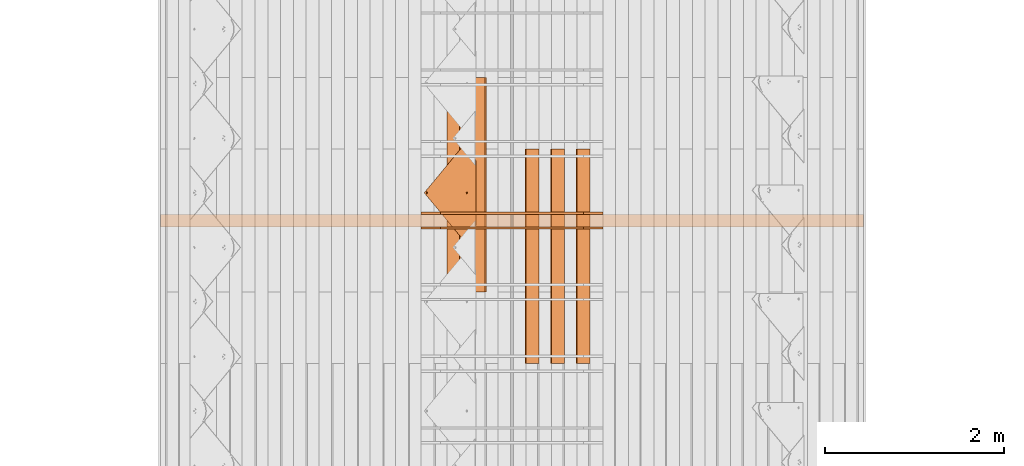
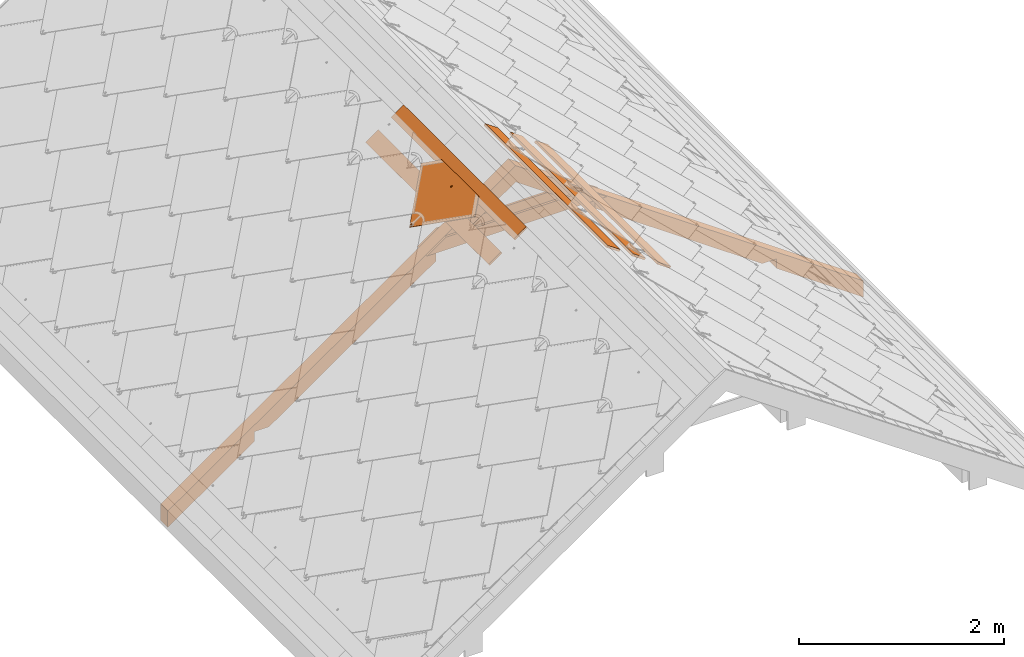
# One storey, part 37 of 133: 9 proxies, 1 element without a shape of its own.
"""IFC2X3 building model written with IfcOpenShell, lengths in millimetres."""

from ifc_helpers import new_model, entity, si_unit, converted_unit, derived_unit, direction, frame, frame_2d, origin, place, context, subcontext, project, spatial, polyline, rectangle, outline, extrude, faceted_brep, source, transform, mapped, material, material_list, type_object, type_shapes, element, aggregate, save


model = new_model("IFC2X3")

# Units and contexts
model_context = context("Model", 3, precision=0.01, world=origin(), true_north=direction((6.12303176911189e-17, 1.0)))
body_context = subcontext(model_context, "Body", "Model", "MODEL_VIEW")
ifc_project = project(units=[si_unit("LENGTHUNIT", "METRE", prefix="MILLI"), si_unit("AREAUNIT", "SQUARE_METRE"), si_unit("VOLUMEUNIT", "CUBIC_METRE"), converted_unit("PLANEANGLEUNIT", "DEGREE", entity("IfcRatioMeasure", 0.0174532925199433), si_unit("PLANEANGLEUNIT", "RADIAN"), dimensions=[0, 0, 0, 0, 0, 0, 0]), si_unit("MASSUNIT", "GRAM", prefix="KILO"), derived_unit("MASSDENSITYUNIT", [(si_unit("MASSUNIT", "GRAM", prefix="KILO"), 1), (si_unit("LENGTHUNIT", "METRE"), -3)]), si_unit("TIMEUNIT", "SECOND"), si_unit("FREQUENCYUNIT", "HERTZ"), si_unit("THERMODYNAMICTEMPERATUREUNIT", "DEGREE_CELSIUS"), derived_unit("THERMALTRANSMITTANCEUNIT", [(si_unit("MASSUNIT", "GRAM", prefix="KILO"), 1), (si_unit("THERMODYNAMICTEMPERATUREUNIT", "KELVIN"), -1), (si_unit("TIMEUNIT", "SECOND"), -3)]), derived_unit("VOLUMETRICFLOWRATEUNIT", [(si_unit("LENGTHUNIT", "METRE"), 3), (si_unit("TIMEUNIT", "SECOND"), -1)]), si_unit("ELECTRICCURRENTUNIT", "AMPERE"), si_unit("ELECTRICVOLTAGEUNIT", "VOLT"), si_unit("POWERUNIT", "WATT"), si_unit("FORCEUNIT", "NEWTON", prefix="KILO"), si_unit("ILLUMINANCEUNIT", "LUX"), si_unit("LUMINOUSFLUXUNIT", "LUMEN"), si_unit("LUMINOUSINTENSITYUNIT", "CANDELA"), derived_unit("USERDEFINED", [(si_unit("MASSUNIT", "GRAM", prefix="KILO"), -1), (si_unit("LENGTHUNIT", "METRE"), -2), (si_unit("TIMEUNIT", "SECOND"), 3), (si_unit("LUMINOUSFLUXUNIT", "LUMEN"), 1)]), derived_unit("LINEARVELOCITYUNIT", [(si_unit("LENGTHUNIT", "METRE"), 1), (si_unit("TIMEUNIT", "SECOND"), -1)]), si_unit("PRESSUREUNIT", "PASCAL"), derived_unit("USERDEFINED", [(si_unit("LENGTHUNIT", "METRE"), -2), (si_unit("MASSUNIT", "GRAM", prefix="KILO"), 1), (si_unit("TIMEUNIT", "SECOND"), -2)])], contexts=[model_context])

# Site, building, storey
site_placement = place(None, origin())
site = spatial("IfcSite", under=ifc_project, at=site_placement, Name="Default", CompositionType="ELEMENT")
building_placement = place(site_placement, origin())
building = spatial("IfcBuilding", under=site, at=building_placement, CompositionType="ELEMENT")
storey_placement = place(building_placement, origin())
storey = spatial("IfcBuildingStorey", under=building, at=storey_placement, Name="Level 1", CompositionType="ELEMENT", Elevation=0.0)

# Assembly, proxies
assembly_placement = place(storey_placement, origin())
assembly = element("IfcElementAssembly", 1, at=assembly_placement, inside=storey, Name="Structural Framing Assembly:Roof Construction Assembly", ObjectType="Structural Framing Assembly:Roof Construction Assembly", AssemblyPlace="NOTDEFINED", PredefinedType="USERDEFINED")
ifc_material_1 = material(Name="Wood - Generic - Wood For Showcase")
building_element_proxy_type_1 = type_object("IfcBuildingElementProxyType", Name="Structural Framing 1", PredefinedType="NOTDEFINED", material=ifc_material_1)
shared_shape_1 = source(origin(), body_context, "Body", "SweptSolid", [
    extrude(outline(polyline([(-929.245683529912, -1327.10037070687), (3863.25950492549, -1327.10037070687), (3975.29271103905, -1167.10037070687), (2778.93361405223, -1167.10037070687), (2713.54351952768, -1260.48710386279), (2580.17344271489, -1167.10037070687), (278.933614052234, -1167.10037070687), (213.543519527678, -1260.48710386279), (80.1734427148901, -1167.10037070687), (-817.212477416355, -1167.10037070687), (-1124.13653843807, -323.833443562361), (-1257.50661525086, -230.446710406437), (-1192.11652072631, -137.059977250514), (-1979.18689675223, 2025.39810840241), (-2112.55697356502, 2118.78484155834), (-2047.16687904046, 2212.17157471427), (-2456.34578886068, 3336.38138996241), (-2568.37899497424, 3176.38138996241), (-929.245683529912, -1327.10037070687)])), frame((1206.77890726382, 3785.55080214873, 1179.90959070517), z_axis=(0.0, 1.0, 0.0), x_axis=(0.819152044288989, 0.0, -0.573576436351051)), (0.0, 0.0, 1.0), 140.0),
])
type_shapes(building_element_proxy_type_1, [shared_shape_1])
proxy_1_placement = place(assembly_placement, frame((0.0, -6400.0, 0.0)))
proxy_1 = element("IfcBuildingElementProxy", 2, at=proxy_1_placement, type_object=building_element_proxy_type_1, material=ifc_material_1, Name="Structural Framing 9:Structural Framing 1", ObjectType="Structural Framing 9:Structural Framing 1", context=body_context, shape_type="MappedRepresentation", body=[
    mapped(shared_shape_1, transform((0.0, 0.0, 0.0), scale=1.0)),
])
building_element_proxy_type_2 = type_object("IfcBuildingElementProxyType", Name="Structural Framing 15", PredefinedType="NOTDEFINED", material=ifc_material_1)
shared_shape_2 = source(origin(), body_context, "Body", "SweptSolid", [
    extrude(rectangle(XDim=24.9999999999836, YDim=174.344679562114, at=frame_2d((2.22044604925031e-13, -1.63424829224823e-13), x_axis=(1.0, 0.0))), frame((1285.35601305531, 1595.55080214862, 2760.23940055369), z_axis=(0.0, 1.0, 0.0), x_axis=(0.573576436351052, 0.0, 0.819152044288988)), (0.0, 0.0, 1.0), 2400.00000000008),
])
type_shapes(building_element_proxy_type_2, [shared_shape_2])
proxy_2_placement = place(assembly_placement, frame((142.814800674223, -5740.0, -100.0)))
proxy_2 = element("IfcBuildingElementProxy", 3, at=proxy_2_placement, type_object=building_element_proxy_type_2, material=ifc_material_1, Name="Structural Framing 162:Structural Framing 15", ObjectType="Structural Framing 162:Structural Framing 15", context=body_context, shape_type="MappedRepresentation", body=[
    mapped(shared_shape_2, transform((0.0, 0.0, 0.0), scale=1.0)),
])
building_element_proxy_type_3 = type_object("IfcBuildingElementProxyType", Name="Structural Framing 15", PredefinedType="NOTDEFINED", material=ifc_material_1)
shared_shape_3 = source(origin(), body_context, "Body", "SweptSolid", [
    extrude(rectangle(XDim=24.9999999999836, YDim=174.344679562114, at=frame_2d((2.22044604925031e-13, -1.63424829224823e-13), x_axis=(1.0, 0.0))), frame((1285.35601305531, 1595.55080214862, 2760.23940055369), z_axis=(0.0, 1.0, 0.0), x_axis=(0.573576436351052, 0.0, 0.819152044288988)), (0.0, 0.0, 1.0), 2400.00000000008),
])
type_shapes(building_element_proxy_type_3, [shared_shape_3])
proxy_3_placement = place(assembly_placement, frame((428.444402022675, -5740.0, -300.0)))
proxy_3 = element("IfcBuildingElementProxy", 4, at=proxy_3_placement, type_object=building_element_proxy_type_3, material=ifc_material_1, Name="Structural Framing 172:Structural Framing 15", ObjectType="Structural Framing 172:Structural Framing 15", context=body_context, shape_type="MappedRepresentation", body=[
    mapped(shared_shape_3, transform((0.0, 0.0, 0.0), scale=1.0)),
])
building_element_proxy_type_4 = type_object("IfcBuildingElementProxyType", Name="Structural Framing 15", PredefinedType="NOTDEFINED", material=ifc_material_1)
shared_shape_4 = source(origin(), body_context, "Body", "SweptSolid", [
    extrude(rectangle(XDim=24.9999999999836, YDim=174.344679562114, at=frame_2d((2.22044604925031e-13, -1.63424829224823e-13), x_axis=(1.0, 0.0))), frame((1285.35601305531, 1595.55080214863, 2760.23940055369), z_axis=(0.0, 1.0, 0.0), x_axis=(0.573576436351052, 0.0, 0.819152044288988)), (0.0, 0.0, 1.0), 2400.00000000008),
])
type_shapes(building_element_proxy_type_4, [shared_shape_4])
proxy_4_placement = place(assembly_placement, frame((714.074003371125, -5740.0, -500.0)))
proxy_4 = element("IfcBuildingElementProxy", 5, at=proxy_4_placement, type_object=building_element_proxy_type_4, material=ifc_material_1, Name="Structural Framing 182:Structural Framing 15", ObjectType="Structural Framing 182:Structural Framing 15", context=body_context, shape_type="MappedRepresentation", body=[
    mapped(shared_shape_4, transform((0.0, 0.0, 0.0), scale=1.0)),
])
building_element_proxy_type_5 = type_object("IfcBuildingElementProxyType", Name="Structural Framing 15", PredefinedType="NOTDEFINED", material=ifc_material_1)
shared_shape_5 = source(origin(), body_context, "Body", "SweptSolid", [
    extrude(rectangle(XDim=24.9999999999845, YDim=174.344679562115, at=frame_2d((-1.77635683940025e-13, -4.54747350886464e-13), x_axis=(0.0, 1.0))), frame((1128.20180147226, 1525.55080214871, 2760.23940055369), z_axis=(0.0, 1.0, 0.0), x_axis=(-0.819152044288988, 0.0, -0.573576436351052)), (0.0, 0.0, 1.0), 2400.0),
])
type_shapes(building_element_proxy_type_5, [shared_shape_5])
proxy_5_placement = place(assembly_placement, frame((-285.629601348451, -4870.0, -200.0)))
proxy_5 = element("IfcBuildingElementProxy", 6, at=proxy_5_placement, type_object=building_element_proxy_type_5, material=ifc_material_1, Name="Structural Framing 27:Structural Framing 15", ObjectType="Structural Framing 27:Structural Framing 15", context=body_context, shape_type="MappedRepresentation", body=[
    mapped(shared_shape_5, transform((0.0, 0.0, 0.0), scale=1.0)),
])
building_element_proxy_type_6 = type_object("IfcBuildingElementProxyType", Name="Structural Framing 15", PredefinedType="NOTDEFINED", material=ifc_material_1)
shared_shape_6 = source(origin(), body_context, "Body", "SweptSolid", [
    extrude(rectangle(XDim=24.9999999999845, YDim=174.344679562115, at=frame_2d((-1.77635683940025e-13, -4.54747350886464e-13), x_axis=(0.0, 1.0))), frame((1128.20180147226, 1525.55080214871, 2760.23940055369), z_axis=(0.0, 1.0, 0.0), x_axis=(-0.819152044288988, 0.0, -0.573576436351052)), (0.0, 0.0, 1.0), 2400.0),
])
type_shapes(building_element_proxy_type_6, [shared_shape_6])
proxy_6_placement = place(assembly_placement, frame((-571.259202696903, -4870.0, -400.0)))
proxy_6 = element("IfcBuildingElementProxy", 7, at=proxy_6_placement, type_object=building_element_proxy_type_6, material=ifc_material_1, Name="Structural Framing 37:Structural Framing 15", ObjectType="Structural Framing 37:Structural Framing 15", context=body_context, shape_type="MappedRepresentation", body=[
    mapped(shared_shape_6, transform((0.0, 0.0, 0.0), scale=1.0)),
])
building_element_proxy_type_7 = type_object("IfcBuildingElementProxyType", Name="Structural Framing 296", PredefinedType="NOTDEFINED", material=ifc_material_1)
shared_shape_7 = source(origin(), body_context, "Body", "SweptSolid", [
    extrude(outline(polyline([(-1014.04699829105, -75.0), (1014.04699829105, -75.0), (799.824797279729, 75.0), (-799.824797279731, 75.0), (-1014.04699829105, -75.0)])), frame((1206.77890726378, 3760.55080214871, 2164.95664769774), z_axis=(0.0, 1.0, 0.0), x_axis=(-1.0, 0.0, 0.0)), (0.0, 0.0, 1.0), 24.9999999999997),
])
type_shapes(building_element_proxy_type_7, [shared_shape_7])
proxy_7_placement = place(assembly_placement, frame((0.0, -6400.0, 0.0)))
proxy_7 = element("IfcBuildingElementProxy", 8, at=proxy_7_placement, type_object=building_element_proxy_type_7, material=ifc_material_1, Name="Structural Framing 311:Structural Framing 296", ObjectType="Structural Framing 311:Structural Framing 296", context=body_context, shape_type="MappedRepresentation", body=[
    mapped(shared_shape_7, transform((0.0, 0.0, 0.0), scale=1.0)),
])
building_element_proxy_type_8 = type_object("IfcBuildingElementProxyType", Name="Structural Framing 296", PredefinedType="NOTDEFINED", material=ifc_material_1)
shared_shape_8 = source(origin(), body_context, "Body", "SweptSolid", [
    extrude(outline(polyline([(-1014.04699829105, -75.0), (1014.04699829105, -75.0), (799.824797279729, 75.0), (-799.824797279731, 75.0), (-1014.04699829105, -75.0)])), frame((1206.77890726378, 2325.55080214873, 2164.95664769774), z_axis=(0.0, 1.0, 0.0), x_axis=(-1.0, 0.0, 0.0)), (0.0, 0.0, 1.0), 25.0),
])
type_shapes(building_element_proxy_type_8, [shared_shape_8])
proxy_8_placement = place(assembly_placement, frame((0.0, -4800.0, 0.0)))
proxy_8 = element("IfcBuildingElementProxy", 9, at=proxy_8_placement, type_object=building_element_proxy_type_8, material=ifc_material_1, Name="Structural Framing 312:Structural Framing 296", ObjectType="Structural Framing 312:Structural Framing 296", context=body_context, shape_type="MappedRepresentation", body=[
    mapped(shared_shape_8, transform((0.0, 0.0, 0.0), scale=1.0)),
])
aggregate(assembly, [proxy_1, proxy_2, proxy_3, proxy_4, proxy_5, proxy_6, proxy_7, proxy_8])

# Proxy
ifc_material_2 = material(Name="Rubber - Sunstyle - Black")
ifc_material_3 = material(Name="Glass - Sunstyle - Tainted Black")
ifc_material_list_1 = material_list([ifc_material_2, ifc_material_3])
ifc_material_list_2 = material_list([ifc_material_2, ifc_material_3])
building_element_proxy_type_9 = type_object("IfcBuildingElementProxyType", Name="Shingle Top - Black", PredefinedType="NOTDEFINED", material=ifc_material_list_2)
shared_shape_9 = source(origin(), body_context, "Body", "Brep", [
    faceted_brep([(-518.396436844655, -96.9865733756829, 16.4476231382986), (-518.396436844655, -96.9614556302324, 17.9474128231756), (-526.881123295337, -88.4767691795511, 17.8053154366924), (-526.881123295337, -88.5018869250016, 16.3055257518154), (-376.996804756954, 61.3404039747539, 13.7960402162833), (-368.512118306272, 52.8557175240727, 13.9381376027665), (-376.996804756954, 61.3655217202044, 15.2958299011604), (-368.512118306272, 52.8808352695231, 15.4379272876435)], [[[0, 1, 2, 3]], [[0, 3, 4, 5]], [[3, 2, 6, 4]], [[2, 1, 7, 6]], [[1, 0, 5, 7]], [[5, 4, 6, 7]]]),
    faceted_brep([(0.166366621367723, -33.6374645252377, -4.47296585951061), (-5.6078362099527, -36.9707346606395, -4.4171418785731), (-5.60783620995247, -36.6024255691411, 17.5747274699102), (0.166366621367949, -33.2691554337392, 17.5189034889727), (-5.60783620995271, -43.6372749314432, -4.30549391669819), (-5.60783620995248, -43.2689658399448, 17.6863754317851), (0.166366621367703, -46.9705450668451, -4.24966993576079), (0.166366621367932, -46.6022359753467, 17.7421994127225), (5.94056945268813, -43.6372749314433, -4.30549391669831), (5.94056945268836, -43.2689658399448, 17.686375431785), (5.94056945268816, -36.9707346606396, -4.41714187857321), (5.94056945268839, -36.6024255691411, 17.5747274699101), (-8.43733754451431, -48.5381935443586, 17.774621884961), (0.16636662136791, -52.1014648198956, 17.8342978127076), (-12.0011084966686, -39.9356957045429, 17.6305514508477), (-8.43733754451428, -31.3331978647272, 17.4864810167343), (0.166366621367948, -27.7699265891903, 17.4268050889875), (8.77007078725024, -31.3331978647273, 17.4864810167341), (12.3338417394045, -39.935695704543, 17.6305514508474), (8.77007078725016, -48.5381935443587, 17.7746218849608), (-11.1578780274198, -37.6406185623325, 19.9433933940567), (-9.59010793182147, -39.8646808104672, 21.8708760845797), (0.166366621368, -32.5516055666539, 22.5035764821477), (0.166366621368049, -31.3111079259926, 21.9232298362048), (0.166366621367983, -29.1535570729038, 20.9138547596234), (0.166366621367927, -51.5454208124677, 19.1093557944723), (0.166366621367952, -50.6018442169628, 21.273060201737), (0.166366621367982, -47.1524685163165, 22.7481046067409), (0.166366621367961, -28.2829626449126, 18.7197675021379), (-6.15687907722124, -43.5022527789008, 22.6869725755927), (-6.15687907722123, -36.2018213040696, 22.5647085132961), (11.4906112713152, -42.1520387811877, 20.0189484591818), (10.0152467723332, -40.9390872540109, 21.7920079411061), (6.48961231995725, -36.2018213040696, 22.564708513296), (6.48961231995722, -43.5022527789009, 22.6869725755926), (-6.15687907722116, -43.3682243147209, 30.68986075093), (0.166366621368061, -47.0184400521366, 30.7509927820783), (0.166366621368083, -39.7180085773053, 30.6287287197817), (-6.15687907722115, -36.0677928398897, 30.5675966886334), (6.48961231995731, -43.368224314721, 30.6898607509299), (6.48961231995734, -36.0677928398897, 30.5675966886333), (0.166366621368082, -32.417577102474, 30.5064646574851), (0.166366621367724, -40.3040047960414, -4.36131789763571)], [[[0, 1, 2, 3]], [[1, 4, 5, 2]], [[4, 6, 7, 5]], [[6, 8, 9, 7]], [[8, 10, 11, 9]], [[10, 0, 3, 11]], [[12, 7, 13]], [[7, 12, 5]], [[14, 5, 12]], [[5, 14, 2]], [[15, 2, 14]], [[3, 2, 15]], [[15, 16, 3]], [[16, 17, 3]], [[11, 3, 17]], [[11, 17, 18]], [[9, 11, 18]], [[18, 19, 9]], [[7, 9, 19]], [[19, 13, 7]], [[20, 14, 12]], [[21, 22, 23, 24]], [[24, 20, 21]], [[25, 20, 12]], [[26, 27, 21]], [[15, 14, 20]], [[12, 13, 25]], [[20, 28, 15]], [[28, 20, 24]], [[21, 27, 29]], [[21, 29, 30]], [[26, 21, 20]], [[20, 25, 26]], [[15, 28, 16]], [[21, 30, 22]], [[31, 18, 17]], [[28, 31, 17]], [[32, 27, 26]], [[26, 31, 32]], [[26, 25, 31]], [[25, 19, 31]], [[17, 16, 28]], [[31, 19, 18]], [[24, 31, 28]], [[33, 34, 32]], [[23, 22, 33]], [[24, 32, 31]], [[27, 32, 34]], [[32, 23, 33]], [[19, 25, 13]], [[32, 24, 23]], [[35, 36, 37]], [[37, 38, 35]], [[36, 39, 37]], [[40, 37, 39]], [[37, 40, 41]], [[37, 41, 38]], [[42, 6, 4]], [[4, 1, 42]], [[1, 0, 42]], [[42, 8, 6]], [[0, 10, 42]], [[8, 42, 10]], [[22, 30, 38, 41]], [[30, 29, 35, 38]], [[29, 27, 36, 35]], [[27, 34, 39, 36]], [[34, 33, 40, 39]], [[33, 22, 41, 40]]]),
    faceted_brep([(0.0, -573.927138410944, 4.00636906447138), (-5.77420283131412, -577.260408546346, 4.0621930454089), (-5.77420283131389, -576.892099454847, 26.0540623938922), (0.0, -573.558829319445, 25.9982384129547), (-5.77420283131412, -583.926948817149, 4.1738410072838), (-5.7742028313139, -583.558639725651, 26.1657103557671), (0.0, -587.260218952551, 4.2296649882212), (0.0, -586.891909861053, 26.2215343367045), (5.77420283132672, -583.926948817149, 4.17384100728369), (5.77420283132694, -583.558639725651, 26.165710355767), (5.77420283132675, -577.260408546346, 4.06219304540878), (5.77420283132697, -576.892099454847, 26.0540623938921), (-8.60370416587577, -588.827867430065, 26.253956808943), (0.0, -592.391138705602, 26.3136327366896), (-12.1674751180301, -580.225369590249, 26.1098863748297), (-8.60370416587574, -571.622871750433, 25.9658159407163), (0.0, -568.059600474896, 25.9061400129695), (8.60370416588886, -571.622871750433, 25.9658159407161), (12.1674751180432, -580.225369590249, 26.1098863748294), (8.60370416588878, -588.827867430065, 26.2539568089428), (-11.3242446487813, -577.930292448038, 28.4227283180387), (-9.75647455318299, -580.154354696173, 30.3502110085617), (0.0, -572.84127945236, 30.9829114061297), (0.0, -571.600781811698, 30.4025647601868), (0.0, -569.44323095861, 29.3931896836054), (0.0, -591.835094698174, 27.5886907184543), (0.0, -590.891518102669, 29.752395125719), (0.0, -587.442142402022, 31.227439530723), (0.0, -568.572636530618, 27.1991024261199), (-6.32324569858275, -583.791926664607, 31.1663074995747), (-6.32324569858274, -576.491495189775, 31.0440434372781), (11.3242446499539, -582.441712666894, 28.4982833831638), (9.84888015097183, -581.228761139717, 30.2713428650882), (6.32324569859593, -576.491495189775, 31.044043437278), (6.32324569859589, -583.791926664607, 31.1663074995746), (-6.32324569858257, -583.657898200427, 39.169195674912), (0.0, -587.308113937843, 39.2303277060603), (0.0, -580.007682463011, 39.1080636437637), (-6.32324569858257, -576.357466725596, 39.0469316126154), (6.32324569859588, -583.657898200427, 39.1691956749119), (6.32324569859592, -576.357466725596, 39.0469316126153), (0.0, -572.70725098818, 38.9857995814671), (0.0, -580.593678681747, 4.11801702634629)], [[[0, 1, 2, 3]], [[1, 4, 5, 2]], [[4, 6, 7, 5]], [[6, 8, 9, 7]], [[8, 10, 11, 9]], [[10, 0, 3, 11]], [[12, 7, 13]], [[7, 12, 5]], [[14, 5, 12]], [[5, 14, 2]], [[15, 2, 14]], [[3, 2, 15]], [[15, 16, 3]], [[16, 17, 3]], [[11, 3, 17]], [[11, 17, 18]], [[9, 11, 18]], [[18, 19, 9]], [[7, 9, 19]], [[19, 13, 7]], [[20, 14, 12]], [[21, 22, 23, 24]], [[24, 20, 21]], [[25, 20, 12]], [[26, 27, 21]], [[15, 14, 20]], [[12, 13, 25]], [[20, 28, 15]], [[28, 20, 24]], [[21, 27, 29]], [[21, 29, 30]], [[26, 21, 20]], [[20, 25, 26]], [[15, 28, 16]], [[21, 30, 22]], [[31, 18, 17]], [[28, 31, 17]], [[32, 27, 26]], [[26, 31, 32]], [[26, 25, 31]], [[25, 19, 31]], [[17, 16, 28]], [[31, 19, 18]], [[24, 31, 28]], [[33, 34, 32]], [[23, 22, 33]], [[24, 32, 31]], [[27, 32, 34]], [[32, 23, 33]], [[19, 25, 13]], [[32, 24, 23]], [[35, 36, 37]], [[37, 38, 35]], [[36, 39, 37]], [[40, 37, 39]], [[37, 40, 41]], [[37, 41, 38]], [[42, 6, 4]], [[4, 1, 42]], [[1, 0, 42]], [[42, 8, 6]], [[0, 10, 42]], [[8, 42, 10]], [[22, 30, 38, 41]], [[30, 29, 35, 38]], [[29, 27, 36, 35]], [[27, 34, 39, 36]], [[34, 33, 40, 39]], [[33, 22, 41, 40]]]),
    faceted_brep([(518.482751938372, -96.8754983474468, 17.9260478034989), (526.967438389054, -88.3908118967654, 17.7839504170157), (526.967438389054, -88.3656941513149, 19.2837401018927), (518.482751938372, -96.8503806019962, 19.4258374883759), (349.749400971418, 71.8105397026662, 15.1009763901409), (358.234087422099, 80.2952261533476, 14.9588790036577), (358.234087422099, 80.3203438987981, 16.4586686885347), (349.749400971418, 71.8356574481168, 16.6007660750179)], [[[0, 1, 2, 3]], [[1, 0, 4, 5]], [[2, 1, 5, 6]], [[3, 2, 6, 7]], [[0, 3, 7, 4]], [[4, 7, 6, 5]]]),
    faceted_brep([(358.234087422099, 80.2952261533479, 14.9588790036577), (6.94661128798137, -35.8890860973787, 16.9046771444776), (7.74581466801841, -37.8182632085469, 16.9369860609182), (5.67526230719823, -34.2324641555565, 16.8769328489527), (8.01840805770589, -39.8885252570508, 16.9716577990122), (7.74581466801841, -41.9587873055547, 17.0063295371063), (6.94661128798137, -43.8879644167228, 17.0386384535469), (526.967438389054, -88.3908118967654, 17.7839504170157), (4.01840805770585, -32.9612934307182, 16.855643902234), (2.08896041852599, -32.1622021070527, 16.8422611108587), (0.0184080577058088, -31.8896469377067, 16.8376964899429), (-358.233442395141, 80.2952261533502, 14.9588790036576), (-2.05214430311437, -32.1622021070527, 16.8422611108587), (-3.98159194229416, -32.9612934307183, 16.855643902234), (-5.63844619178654, -34.2324641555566, 16.8769328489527), (-6.90979517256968, -35.8890860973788, 16.9046771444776), (-7.70899855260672, -37.8182632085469, 16.9369860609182), (-7.98159194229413, -39.8885252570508, 16.9716577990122), (-7.70899855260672, -41.9587873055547, 17.0063295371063), (-6.90979517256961, -43.8879644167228, 17.0386384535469), (-526.966793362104, -88.390811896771, 17.7839504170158), (-5.63844619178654, -45.544586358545, 17.0663827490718), (-5.6568542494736, -574.226981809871, 25.9204974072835), (-6.92820323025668, -575.883603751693, 25.9482417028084), (-7.72740661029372, -577.812780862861, 25.980550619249), (-8.0, -579.883042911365, 26.015222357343), (-7.72740661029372, -581.953304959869, 26.049894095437), (0.000322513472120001, -615.210165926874, 26.6068637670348), (7.72740661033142, -581.953304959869, 26.049894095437), (6.92820323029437, -583.882482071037, 26.0822030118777), (5.65685424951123, -585.53910401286, 26.1099473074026), (4.0, -586.810274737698, 26.1312362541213), (2.070552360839, -587.609366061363, 26.1446190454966), (0.0, -587.881921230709, 26.1491836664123), (-2.0705523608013, -587.609366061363, 26.1446190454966), (-4.0, -586.810274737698, 26.1312362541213), (-5.65685424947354, -585.53910401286, 26.1099473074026), (-6.92820323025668, -583.882482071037, 26.0822030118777), (-4.0, -572.955811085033, 25.8992084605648), (-3.98159194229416, -46.8157570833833, 17.0876716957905), (-2.07055236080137, -572.156719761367, 25.8858256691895), (-2.05214430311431, -47.614848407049, 17.1010544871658), (0.0, -571.884164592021, 25.8812610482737), (0.0184080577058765, -47.8874035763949, 17.1056191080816), (2.07055236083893, -572.156719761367, 25.8858256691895), (2.08896041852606, -47.6148484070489, 17.1010544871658), (4.0, -572.955811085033, 25.8992084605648), (4.01840805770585, -46.8157570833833, 17.0876716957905), (5.65685424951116, -574.226981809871, 25.9204974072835), (5.67526230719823, -45.544586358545, 17.0663827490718), (6.92820323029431, -575.883603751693, 25.9482417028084), (7.72740661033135, -577.812780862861, 25.980550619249), (8.0, -579.883042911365, 26.015222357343), (-358.233442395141, 80.1947551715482, 8.9597202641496), (-6.90979517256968, -35.9895570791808, 10.9055184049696), (-7.70899855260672, -37.9187341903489, 10.9378273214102), (-5.63844619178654, -34.3329351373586, 10.8777741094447), (-7.98159194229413, -39.9889962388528, 10.9724990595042), (-7.70899855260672, -42.0592582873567, 11.0071707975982), (-6.90979517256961, -43.9884353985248, 11.0394797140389), (-526.966793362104, -88.4912828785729, 11.7847916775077), (-3.98159194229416, -33.0617644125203, 10.856485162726), (-2.05214430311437, -32.2626730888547, 10.8431023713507), (0.0184080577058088, -31.9901179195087, 10.8385377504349), (358.234087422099, 80.1947551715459, 8.95972026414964), (2.08896041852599, -32.2626730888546, 10.8431023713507), (4.01840805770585, -33.0617644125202, 10.856485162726), (5.67526230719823, -34.3329351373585, 10.8777741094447), (6.94661128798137, -35.9895570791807, 10.9055184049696), (7.74581466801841, -37.9187341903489, 10.9378273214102), (8.01840805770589, -39.9889962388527, 10.9724990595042), (7.74581466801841, -42.0592582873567, 11.0071707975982), (6.94661128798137, -43.9884353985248, 11.0394797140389), (526.967438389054, -88.4912828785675, 11.7847916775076), (5.67526230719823, -45.645057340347, 11.0672240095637), (5.65685424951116, -574.327452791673, 19.9213386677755), (6.92820323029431, -575.984074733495, 19.9490829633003), (7.72740661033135, -577.913251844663, 19.981391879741), (8.0, -579.983513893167, 20.016063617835), (7.72740661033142, -582.053775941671, 20.050735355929), (0.000322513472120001, -615.310636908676, 20.6077050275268), (-7.72740661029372, -582.053775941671, 20.050735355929), (-6.92820323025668, -583.982953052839, 20.0830442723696), (-5.65685424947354, -585.639574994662, 20.1107885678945), (-4.0, -586.9107457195, 20.1320775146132), (-2.0705523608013, -587.709837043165, 20.1454603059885), (0.0, -587.982392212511, 20.1500249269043), (2.070552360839, -587.709837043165, 20.1454603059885), (4.0, -586.9107457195, 20.1320775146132), (5.65685424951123, -585.639574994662, 20.1107885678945), (6.92820323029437, -583.982953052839, 20.0830442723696), (4.01840805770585, -46.9162280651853, 11.0885129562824), (4.0, -573.056282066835, 19.9000497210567), (2.08896041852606, -47.7153193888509, 11.1018957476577), (2.07055236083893, -572.257190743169, 19.8866669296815), (0.0184080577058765, -47.9878745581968, 11.1064603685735), (0.0, -571.984635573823, 19.8821023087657), (-2.05214430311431, -47.7153193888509, 11.1018957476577), (-2.07055236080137, -572.257190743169, 19.8866669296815), (-3.98159194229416, -46.9162280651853, 11.0885129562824), (-4.0, -573.056282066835, 19.9000497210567), (-5.63844619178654, -45.645057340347, 11.0672240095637), (-5.6568542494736, -574.327452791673, 19.9213386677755), (-6.92820323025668, -575.984074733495, 19.9490829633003), (-7.72740661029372, -577.913251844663, 19.981391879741), (-8.0, -579.983513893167, 20.016063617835)], [[[0, 1, 2]], [[1, 0, 3]], [[0, 2, 4]], [[4, 5, 0]], [[5, 6, 0]], [[7, 0, 6]], [[8, 3, 0]], [[9, 8, 0]], [[10, 9, 0]], [[0, 11, 10]], [[12, 10, 11]], [[13, 12, 11]], [[14, 13, 11]], [[11, 15, 14]], [[15, 11, 16]], [[16, 11, 17]], [[11, 18, 17]], [[18, 11, 19]], [[11, 20, 19]], [[19, 20, 21]], [[20, 22, 21]], [[23, 22, 20]], [[24, 23, 20]], [[24, 20, 25]], [[26, 25, 20]], [[27, 26, 20]], [[7, 28, 27]], [[29, 27, 28]], [[27, 29, 30]], [[30, 31, 27]], [[31, 32, 27]], [[27, 32, 33]], [[27, 33, 34]], [[34, 35, 27]], [[27, 35, 36]], [[36, 37, 27]], [[37, 26, 27]], [[38, 21, 22]], [[38, 39, 21]], [[38, 40, 39]], [[40, 41, 39]], [[40, 42, 41]], [[41, 42, 43]], [[44, 43, 42]], [[44, 45, 43]], [[45, 44, 46]], [[46, 47, 45]], [[46, 48, 47]], [[48, 49, 47]], [[50, 7, 48]], [[48, 7, 49]], [[7, 50, 51]], [[7, 51, 52]], [[52, 28, 7]], [[7, 6, 49]], [[53, 54, 55]], [[54, 53, 56]], [[53, 55, 57]], [[58, 53, 57]], [[59, 53, 58]], [[60, 53, 59]], [[61, 56, 53]], [[62, 61, 53]], [[53, 63, 62]], [[63, 53, 64]], [[65, 63, 64]], [[66, 65, 64]], [[64, 67, 66]], [[67, 64, 68]], [[68, 64, 69]], [[70, 69, 64]], [[71, 70, 64]], [[72, 71, 64]], [[72, 64, 73]], [[72, 73, 74]], [[74, 73, 75]], [[73, 76, 75]], [[76, 73, 77]], [[77, 73, 78]], [[79, 78, 73]], [[79, 73, 80]], [[60, 81, 80]], [[80, 81, 82]], [[80, 82, 83]], [[83, 84, 80]], [[84, 85, 80]], [[85, 86, 80]], [[80, 86, 87]], [[80, 87, 88]], [[80, 88, 89]], [[79, 80, 90]], [[80, 89, 90]], [[75, 91, 74]], [[75, 92, 91]], [[92, 93, 91]], [[93, 92, 94]], [[93, 94, 95]], [[96, 95, 94]], [[97, 95, 96]], [[96, 98, 97]], [[98, 99, 97]], [[98, 100, 99]], [[100, 101, 99]], [[100, 102, 101]], [[60, 101, 102]], [[103, 60, 102]], [[103, 104, 60]], [[104, 105, 60]], [[105, 81, 60]], [[59, 101, 60]], [[27, 20, 60, 80]], [[7, 27, 80, 73]], [[0, 7, 73, 64]], [[25, 105, 104, 24]], [[24, 104, 103, 23]], [[38, 22, 102, 100]], [[102, 22, 23, 103]], [[40, 38, 100, 98]], [[40, 98, 96, 42]], [[42, 96, 94, 44]], [[44, 94, 92, 46]], [[50, 48, 75, 76]], [[75, 48, 46, 92]], [[51, 50, 76, 77]], [[51, 77, 78, 52]], [[52, 78, 79, 28]], [[28, 79, 90, 29]], [[31, 30, 89, 88]], [[29, 90, 89, 30]], [[87, 32, 31, 88]], [[32, 87, 86, 33]], [[34, 33, 86, 85]], [[34, 85, 84, 35]], [[37, 36, 83, 82]], [[35, 84, 83, 36]], [[37, 82, 81, 26]], [[26, 81, 105, 25]], [[17, 57, 55, 16]], [[16, 55, 54, 15]], [[13, 14, 56, 61]], [[56, 14, 15, 54]], [[12, 13, 61, 62]], [[12, 62, 63, 10]], [[10, 63, 65, 9]], [[9, 65, 66, 8]], [[1, 3, 67, 68]], [[67, 3, 8, 66]], [[2, 1, 68, 69]], [[2, 69, 70, 4]], [[4, 70, 71, 5]], [[5, 71, 72, 6]], [[47, 49, 74, 91]], [[74, 49, 6, 72]], [[45, 47, 91, 93]], [[45, 93, 95, 43]], [[43, 95, 97, 41]], [[41, 97, 99, 39]], [[19, 21, 101, 59]], [[101, 21, 39, 99]], [[18, 19, 59, 58]], [[18, 58, 57, 17]], [[11, 0, 64, 53]], [[20, 11, 53, 60]]]),
])
type_shapes(building_element_proxy_type_9, [shared_shape_9])
proxy_9_placement = place(storey_placement, frame((745.409615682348, -2234.8191263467, 2507.46510885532), z_axis=(-0.57357643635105, 0.0, 0.819152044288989), x_axis=(0.0, -1.0, 0.0)))
element("IfcBuildingElementProxy", 10, at=proxy_9_placement, inside=storey, type_object=building_element_proxy_type_9, material=ifc_material_list_1, Name="Roofing_Panels_SunStyle_Tile_Shingle-Top:Shingle Top - Black", ObjectType="Roofing_Panels_SunStyle_Tile_Shingle-Top:Shingle Top - Black", context=body_context, shape_type="MappedRepresentation", body=[
    mapped(shared_shape_9, transform((0.0, 0.0, 0.0), scale=1.0)),
])

save(model, "model.ifc")
